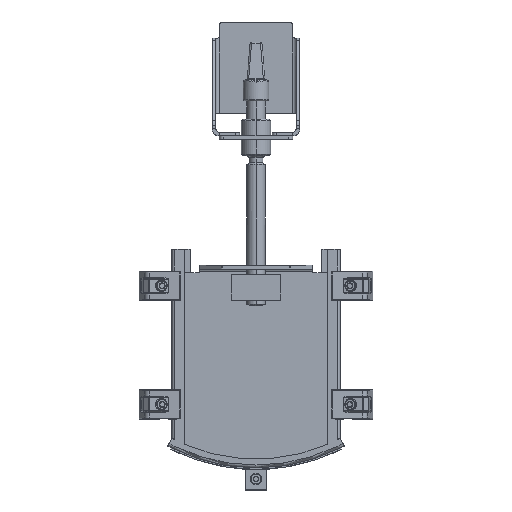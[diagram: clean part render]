
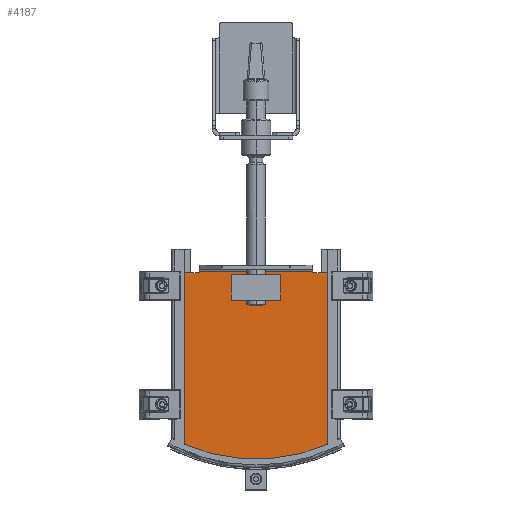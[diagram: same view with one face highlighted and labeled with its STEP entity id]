
A CAD part, top view. The second image highlights one B-rep face of the part: STEP entity #4187.
In plain terms, the highlighted planar face has unit normal (0, 0, 1).
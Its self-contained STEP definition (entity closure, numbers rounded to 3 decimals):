
#182 = CARTESIAN_POINT ( 'NONE',  ( 98.172, 255., 33. ) ) ;
#204 = DIRECTION ( 'NONE',  ( 1., 0., 0. ) ) ;
#2109 = EDGE_CURVE ( 'NONE', #16657, #7622, #5409, .T. ) ;
#2319 = VERTEX_POINT ( 'NONE', #10731 ) ;
#2335 = DIRECTION ( 'NONE',  ( 1., 0., 0. ) ) ;
#3244 = AXIS2_PLACEMENT_3D ( 'NONE', #40235, #5629, #53043 ) ;
#3983 = VERTEX_POINT ( 'NONE', #21271 ) ;
#4187 = ADVANCED_FACE ( 'NONE', ( #36617, #23489 ), #39690, .T. ) ;
#5351 = EDGE_CURVE ( 'NONE', #48552, #49434, #50138, .T. ) ;
#5409 = CIRCLE ( 'NONE', #41091, 245. ) ;
#5629 = DIRECTION ( 'NONE',  ( 0., 0., 1. ) ) ;
#5758 = VERTEX_POINT ( 'NONE', #43124 ) ;
#5972 = DIRECTION ( 'NONE',  ( 0., 0., -1. ) ) ;
#6258 = CARTESIAN_POINT ( 'NONE',  ( -34., 217.5, 33. ) ) ;
#6263 = VECTOR ( 'NONE', #8886, 1000. ) ;
#7330 = LINE ( 'NONE', #20183, #11128 ) ;
#7569 = EDGE_CURVE ( 'NONE', #2319, #32116, #48979, .T. ) ;
#7622 = VERTEX_POINT ( 'NONE', #7914 ) ;
#7914 = CARTESIAN_POINT ( 'NONE',  ( 98., 20.454, 33. ) ) ;
#8434 = VERTEX_POINT ( 'NONE', #40329 ) ;
#8886 = DIRECTION ( 'NONE',  ( 0., 1., 0. ) ) ;
#9782 = LINE ( 'NONE', #43356, #19135 ) ;
#10606 = EDGE_CURVE ( 'NONE', #16657, #5758, #54585, .T. ) ;
#10663 = AXIS2_PLACEMENT_3D ( 'NONE', #44231, #5972, #2335 ) ;
#10731 = CARTESIAN_POINT ( 'NONE',  ( -34., 217.5, 33. ) ) ;
#11128 = VECTOR ( 'NONE', #19078, 1000. ) ;
#11772 = DIRECTION ( 'NONE',  ( 0., 0., -1. ) ) ;
#12399 = ORIENTED_EDGE ( 'NONE', *, *, #2109, .T. ) ;
#13190 = VECTOR ( 'NONE', #46546, 1000. ) ;
#13887 = ORIENTED_EDGE ( 'NONE', *, *, #43509, .F. ) ;
#13994 = LINE ( 'NONE', #26860, #54619 ) ;
#14759 = EDGE_CURVE ( 'NONE', #51666, #5758, #7330, .T. ) ;
#16657 = VERTEX_POINT ( 'NONE', #35144 ) ;
#16885 = CARTESIAN_POINT ( 'NONE',  ( -34., 252.5, 33. ) ) ;
#17999 = CARTESIAN_POINT ( 'NONE',  ( 79., 255., 33. ) ) ;
#18534 = CARTESIAN_POINT ( 'NONE',  ( 34., 217.5, 33. ) ) ;
#18941 = AXIS2_PLACEMENT_3D ( 'NONE', #37467, #11772, #28802 ) ;
#19011 = CARTESIAN_POINT ( 'NONE',  ( 98., 25.856, 33. ) ) ;
#19078 = DIRECTION ( 'NONE',  ( -1., 0., 0. ) ) ;
#19135 = VECTOR ( 'NONE', #26573, 1000. ) ;
#20183 = CARTESIAN_POINT ( 'NONE',  ( -98.172, 255., 33. ) ) ;
#20723 = ORIENTED_EDGE ( 'NONE', *, *, #7569, .F. ) ;
#20819 = EDGE_CURVE ( 'NONE', #8434, #28796, #13994, .T. ) ;
#21271 = CARTESIAN_POINT ( 'NONE',  ( -77., 257., 33. ) ) ;
#21638 = EDGE_LOOP ( 'NONE', ( #32525, #12399, #13887, #52354, #45595, #53226, #55027, #42380 ) ) ;
#22297 = VERTEX_POINT ( 'NONE', #53083 ) ;
#22911 = ORIENTED_EDGE ( 'NONE', *, *, #20819, .F. ) ;
#23292 = DIRECTION ( 'NONE',  ( 1., 0., 0. ) ) ;
#23489 = FACE_BOUND ( 'NONE', #51960, .T. ) ;
#23601 = ORIENTED_EDGE ( 'NONE', *, *, #36564, .F. ) ;
#23636 = CARTESIAN_POINT ( 'NONE',  ( -79., 255., 33. ) ) ;
#23696 = EDGE_CURVE ( 'NONE', #3983, #22297, #47147, .T. ) ;
#24384 = ORIENTED_EDGE ( 'NONE', *, *, #28373, .F. ) ;
#25933 = CARTESIAN_POINT ( 'NONE',  ( -105., 257., 33. ) ) ;
#26570 = DIRECTION ( 'NONE',  ( 0., -1., 0. ) ) ;
#26573 = DIRECTION ( 'NONE',  ( 0., -1., 0. ) ) ;
#26860 = CARTESIAN_POINT ( 'NONE',  ( -34., 252.5, 33. ) ) ;
#27394 = LINE ( 'NONE', #19011, #32719 ) ;
#27634 = VECTOR ( 'NONE', #34607, 1000. ) ;
#28373 = EDGE_CURVE ( 'NONE', #28796, #2319, #9782, .T. ) ;
#28796 = VERTEX_POINT ( 'NONE', #16885 ) ;
#28802 = DIRECTION ( 'NONE',  ( 1., 0., 0. ) ) ;
#32116 = VERTEX_POINT ( 'NONE', #18534 ) ;
#32525 = ORIENTED_EDGE ( 'NONE', *, *, #10606, .F. ) ;
#32719 = VECTOR ( 'NONE', #26570, 1000. ) ;
#34007 = DIRECTION ( 'NONE',  ( 0., 0., 1. ) ) ;
#34363 = LINE ( 'NONE', #51065, #6263 ) ;
#34607 = DIRECTION ( 'NONE',  ( 1., 0., 0. ) ) ;
#35144 = CARTESIAN_POINT ( 'NONE',  ( -98., 20.454, 33. ) ) ;
#36153 = EDGE_CURVE ( 'NONE', #3983, #51666, #38311, .T. ) ;
#36564 = EDGE_CURVE ( 'NONE', #32116, #8434, #34363, .T. ) ;
#36617 = FACE_OUTER_BOUND ( 'NONE', #21638, .T. ) ;
#37467 = CARTESIAN_POINT ( 'NONE',  ( 79., 257., 33. ) ) ;
#38311 = CIRCLE ( 'NONE', #10663, 2. ) ;
#39203 = CARTESIAN_POINT ( 'NONE',  ( 98., 255., 33. ) ) ;
#39690 = PLANE ( 'NONE',  #3244 ) ;
#40235 = CARTESIAN_POINT ( 'NONE',  ( -105., 25.856, 33. ) ) ;
#40329 = CARTESIAN_POINT ( 'NONE',  ( 34., 252.5, 33. ) ) ;
#40787 = EDGE_CURVE ( 'NONE', #49434, #22297, #43054, .T. ) ;
#41091 = AXIS2_PLACEMENT_3D ( 'NONE', #42373, #34007, #204 ) ;
#41804 = CARTESIAN_POINT ( 'NONE',  ( -98., 25.856, 33. ) ) ;
#42373 = CARTESIAN_POINT ( 'NONE',  ( 0., 245., 33. ) ) ;
#42380 = ORIENTED_EDGE ( 'NONE', *, *, #14759, .T. ) ;
#43054 = CIRCLE ( 'NONE', #18941, 2. ) ;
#43124 = CARTESIAN_POINT ( 'NONE',  ( -98., 255., 33. ) ) ;
#43356 = CARTESIAN_POINT ( 'NONE',  ( -34., 252.5, 33. ) ) ;
#43509 = EDGE_CURVE ( 'NONE', #48552, #7622, #27394, .T. ) ;
#44231 = CARTESIAN_POINT ( 'NONE',  ( -79., 257., 33. ) ) ;
#45595 = ORIENTED_EDGE ( 'NONE', *, *, #40787, .T. ) ;
#46546 = DIRECTION ( 'NONE',  ( 0., 1., 0. ) ) ;
#47147 = LINE ( 'NONE', #25933, #27634 ) ;
#47626 = DIRECTION ( 'NONE',  ( -1., 0., 0. ) ) ;
#48552 = VERTEX_POINT ( 'NONE', #39203 ) ;
#48979 = LINE ( 'NONE', #6258, #52142 ) ;
#49434 = VERTEX_POINT ( 'NONE', #17999 ) ;
#50138 = LINE ( 'NONE', #182, #50277 ) ;
#50277 = VECTOR ( 'NONE', #47626, 1000. ) ;
#51065 = CARTESIAN_POINT ( 'NONE',  ( 34., 252.5, 33. ) ) ;
#51666 = VERTEX_POINT ( 'NONE', #23636 ) ;
#51960 = EDGE_LOOP ( 'NONE', ( #24384, #22911, #23601, #20723 ) ) ;
#52142 = VECTOR ( 'NONE', #23292, 1000. ) ;
#52354 = ORIENTED_EDGE ( 'NONE', *, *, #5351, .T. ) ;
#52512 = DIRECTION ( 'NONE',  ( -1., 0., 0. ) ) ;
#53043 = DIRECTION ( 'NONE',  ( 1., 0., 0. ) ) ;
#53083 = CARTESIAN_POINT ( 'NONE',  ( 77., 257., 33. ) ) ;
#53226 = ORIENTED_EDGE ( 'NONE', *, *, #23696, .F. ) ;
#54585 = LINE ( 'NONE', #41804, #13190 ) ;
#54619 = VECTOR ( 'NONE', #52512, 1000. ) ;
#55027 = ORIENTED_EDGE ( 'NONE', *, *, #36153, .T. ) ;
